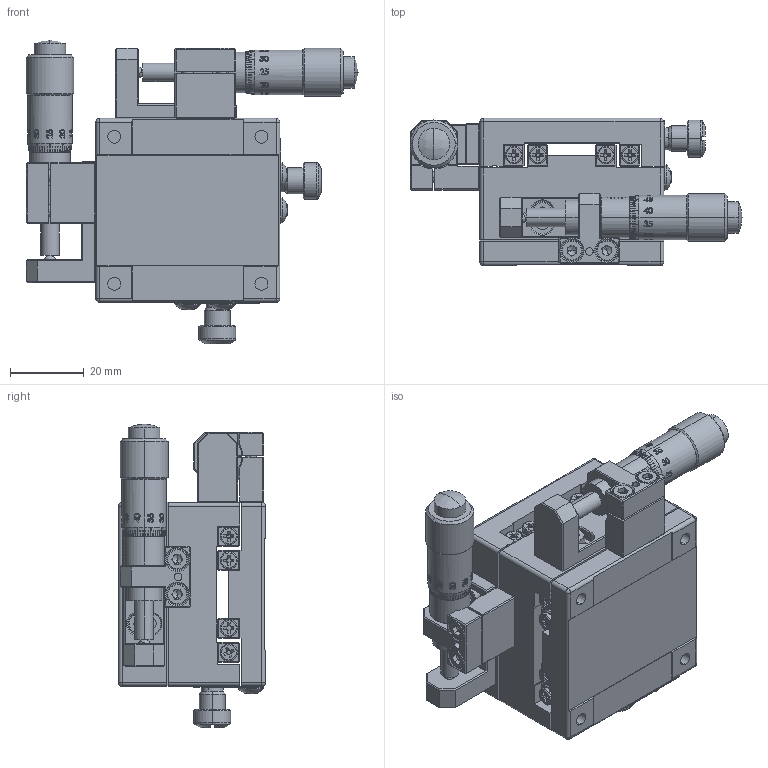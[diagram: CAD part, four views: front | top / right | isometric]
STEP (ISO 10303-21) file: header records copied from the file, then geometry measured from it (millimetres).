
FILE_DESCRIPTION (( 'STEP AP203' ), '1' );
FILE_NAME ('MY50-AS.STEP', '2013-04-26T08:48:54', ( '123' ), ( '' ), 'SwSTEP 2.0', 'SolidWorks 2013', '' );
FILE_SCHEMA (( 'CONFIG_CONTROL_DESIGN' ));
Products named in the file (4): Group1^MY50-AS; Group2^MY50-AS; Group3^MY50-AS; MY50-AS
Assembly tree (3 placements, depth 2):
  MY50-AS
    Group1^MY50-AS
    Group2^MY50-AS
    Group3^MY50-AS
Bounding box: 90.25 x 40 x 82.55 mm (x, y, z)
Volume: 111348.8 mm3; surface area: 48482.8 mm2
Topology: 40 solids, 40 shells, 5001 faces, 12910 edges, 8258 vertices
Faces by surface type: plane 3021, cylinder 811, bspline 755, cone 286, torus 104, sphere 24
Entity records: 202788 total; most frequent: CARTESIAN_POINT 85352, ORIENTED_EDGE 25688, DIRECTION 21926, EDGE_CURVE 12844, VERTEX_POINT 8252, VECTOR 7730, LINE 7730, AXIS2_PLACEMENT_3D 7098
